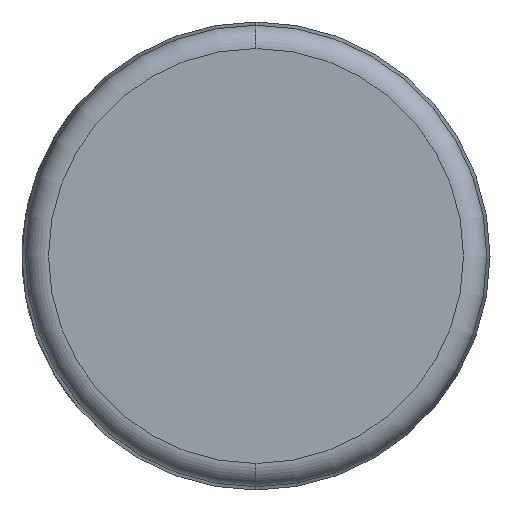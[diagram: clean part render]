
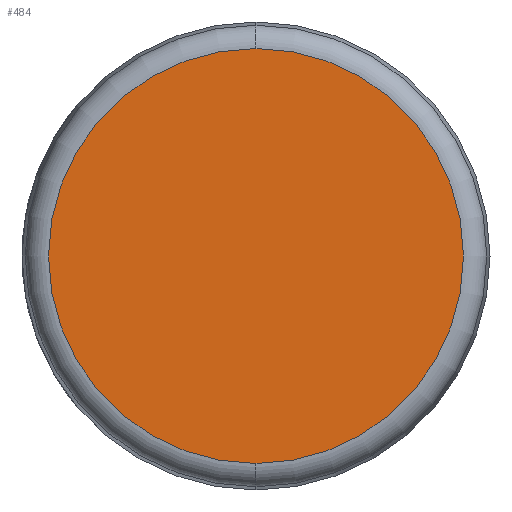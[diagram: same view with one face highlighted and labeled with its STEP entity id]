
A CAD part, left-side view. The second image highlights one B-rep face of the part: STEP entity #484.
In plain terms, the highlighted planar face has unit normal (-1, 0, 0).
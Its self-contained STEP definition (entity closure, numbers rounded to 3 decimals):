
#54 = DIRECTION ( 'NONE',  ( 0., 0., -1. ) ) ;
#85 = ORIENTED_EDGE ( 'NONE', *, *, #303, .T. ) ;
#91 = AXIS2_PLACEMENT_3D ( 'NONE', #594, #597, #335 ) ;
#107 = VERTEX_POINT ( 'NONE', #465 ) ;
#213 = DIRECTION ( 'NONE',  ( 1., 0., 0. ) ) ;
#222 = CARTESIAN_POINT ( 'NONE',  ( 0., 0., 0. ) ) ;
#230 = PLANE ( 'NONE',  #632 ) ;
#261 = CIRCLE ( 'NONE', #91, 17.73 ) ;
#286 = FACE_OUTER_BOUND ( 'NONE', #477, .T. ) ;
#303 = EDGE_CURVE ( 'NONE', #107, #687, #672, .T. ) ;
#335 = DIRECTION ( 'NONE',  ( 0., 0., -1. ) ) ;
#428 = EDGE_CURVE ( 'NONE', #687, #107, #261, .T. ) ;
#465 = CARTESIAN_POINT ( 'NONE',  ( 0., 0., -17.73 ) ) ;
#477 = EDGE_LOOP ( 'NONE', ( #85, #668 ) ) ;
#484 = ADVANCED_FACE ( 'NONE', ( #286 ), #230, .F. ) ;
#512 = DIRECTION ( 'NONE',  ( 0., 0., -1. ) ) ;
#526 = AXIS2_PLACEMENT_3D ( 'NONE', #652, #740, #54 ) ;
#543 = CARTESIAN_POINT ( 'NONE',  ( 0., 0., 17.73 ) ) ;
#594 = CARTESIAN_POINT ( 'NONE',  ( 0., 0., 0. ) ) ;
#597 = DIRECTION ( 'NONE',  ( -1., 0., 0. ) ) ;
#632 = AXIS2_PLACEMENT_3D ( 'NONE', #222, #213, #512 ) ;
#652 = CARTESIAN_POINT ( 'NONE',  ( 0., 0., 0. ) ) ;
#668 = ORIENTED_EDGE ( 'NONE', *, *, #428, .T. ) ;
#672 = CIRCLE ( 'NONE', #526, 17.73 ) ;
#687 = VERTEX_POINT ( 'NONE', #543 ) ;
#740 = DIRECTION ( 'NONE',  ( -1., 0., 0. ) ) ;
